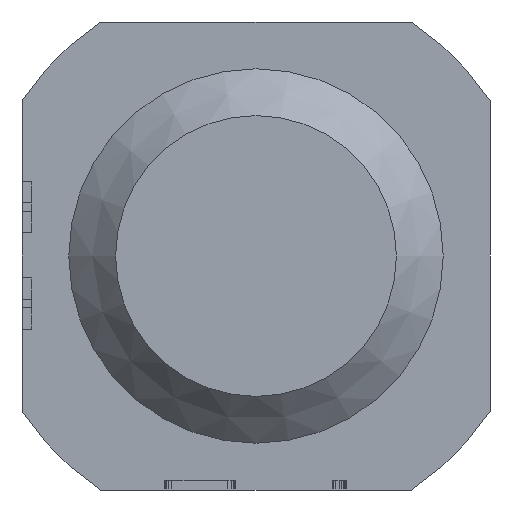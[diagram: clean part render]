
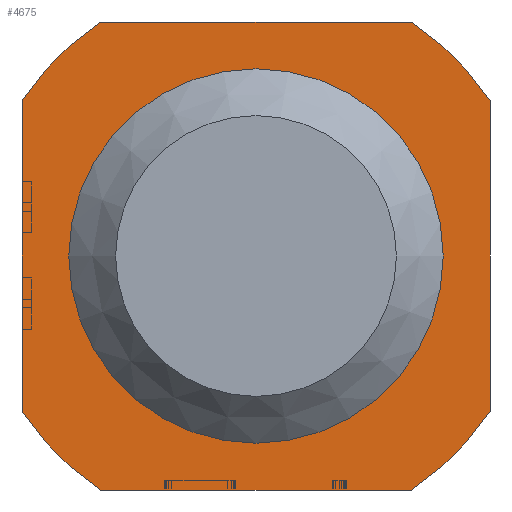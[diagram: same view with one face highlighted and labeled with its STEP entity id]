
A CAD part, front view. The second image highlights one B-rep face of the part: STEP entity #4675.
In plain terms, the highlighted planar face has unit normal (0, -1, 0).
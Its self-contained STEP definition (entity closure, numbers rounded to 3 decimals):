
#4675=ADVANCED_FACE('',(#34466,#34468),#34470,.T.);
#34466=FACE_BOUND('',#34467,.T.);
#34467=EDGE_LOOP('',(#62147,#62148,#62149,#62150,#62151,#62152,#62153,#62154));
#34468=FACE_BOUND('',#34469,.T.);
#34469=EDGE_LOOP('',(#62155));
#34470=PLANE('',#34471);
#34471=AXIS2_PLACEMENT_3D('',#34472,#34473,#34474);
#34472=CARTESIAN_POINT('',(0.,-165.,0.));
#34473=DIRECTION('',(0.,-1.,0.));
#34474=DIRECTION('',(-1.,0.,0.));
#62147=ORIENTED_EDGE('',*,*,#68439,.T.);
#62148=ORIENTED_EDGE('',*,*,#68558,.T.);
#62149=ORIENTED_EDGE('',*,*,#68556,.T.);
#62150=ORIENTED_EDGE('',*,*,#68530,.T.);
#62151=ORIENTED_EDGE('',*,*,#68528,.T.);
#62152=ORIENTED_EDGE('',*,*,#68445,.T.);
#62153=ORIENTED_EDGE('',*,*,#68443,.T.);
#62154=ORIENTED_EDGE('',*,*,#68441,.T.);
#62155=ORIENTED_EDGE('',*,*,#68560,.F.);
#68439=EDGE_CURVE('',#71628,#71626,#71629,.F.);
#68441=EDGE_CURVE('',#71631,#71628,#71632,.T.);
#68443=EDGE_CURVE('',#71634,#71631,#71635,.F.);
#68445=EDGE_CURVE('',#71637,#71634,#71638,.T.);
#68528=EDGE_CURVE('',#71802,#71637,#71803,.F.);
#68530=EDGE_CURVE('',#71805,#71802,#71806,.T.);
#68556=EDGE_CURVE('',#71856,#71805,#71857,.F.);
#68558=EDGE_CURVE('',#71626,#71856,#71859,.T.);
#68560=EDGE_CURVE('',#71862,#71862,#71863,.T.);
#71626=VERTEX_POINT('',#77859);
#71628=VERTEX_POINT('',#77863);
#71629=CIRCLE('',#77864,6.);
#71631=VERTEX_POINT('',#77871);
#71632=LINE('',#77872,#77873);
#71634=VERTEX_POINT('',#77878);
#71635=CIRCLE('',#77879,6.);
#71637=VERTEX_POINT('',#77886);
#71638=LINE('',#77887,#77888);
#71802=VERTEX_POINT('',#78272);
#71803=CIRCLE('',#78273,6.);
#71805=VERTEX_POINT('',#78280);
#71806=LINE('',#78281,#78282);
#71856=VERTEX_POINT('',#78383);
#71857=CIRCLE('',#78384,6.);
#71859=LINE('',#78391,#78392);
#71862=VERTEX_POINT('',#78399);
#71863=CIRCLE('',#78400,3.1);
#77859=CARTESIAN_POINT('',(3.317,-165.,5.));
#77863=CARTESIAN_POINT('',(5.,-165.,3.317));
#77864=AXIS2_PLACEMENT_3D('',#77865,#77866,#77867);
#77865=CARTESIAN_POINT('',(0.,-165.,0.));
#77866=DIRECTION('',(0.,1.,0.));
#77867=DIRECTION('',(0.553,0.,0.833));
#77871=CARTESIAN_POINT('',(5.,-165.,-3.317));
#77872=CARTESIAN_POINT('',(5.,-165.,-3.317));
#77873=VECTOR('',#77874,1.);
#77874=DIRECTION('',(0.,0.,1.));
#77878=CARTESIAN_POINT('',(3.317,-165.,-5.));
#77879=AXIS2_PLACEMENT_3D('',#77880,#77881,#77882);
#77880=CARTESIAN_POINT('',(0.,-165.,0.));
#77881=DIRECTION('',(0.,1.,0.));
#77882=DIRECTION('',(0.833,0.,-0.553));
#77886=CARTESIAN_POINT('',(-3.317,-165.,-5.));
#77887=CARTESIAN_POINT('',(-3.317,-165.,-5.));
#77888=VECTOR('',#77889,1.);
#77889=DIRECTION('',(1.,0.,0.));
#78272=CARTESIAN_POINT('',(-5.,-165.,-3.317));
#78273=AXIS2_PLACEMENT_3D('',#78274,#78275,#78276);
#78274=CARTESIAN_POINT('',(0.,-165.,0.));
#78275=DIRECTION('',(0.,1.,0.));
#78276=DIRECTION('',(-0.553,0.,-0.833));
#78280=CARTESIAN_POINT('',(-5.,-165.,3.317));
#78281=CARTESIAN_POINT('',(-5.,-165.,3.317));
#78282=VECTOR('',#78283,1.);
#78283=DIRECTION('',(0.,0.,-1.));
#78383=CARTESIAN_POINT('',(-3.317,-165.,5.));
#78384=AXIS2_PLACEMENT_3D('',#78385,#78386,#78387);
#78385=CARTESIAN_POINT('',(0.,-165.,0.));
#78386=DIRECTION('',(0.,1.,0.));
#78387=DIRECTION('',(-0.833,0.,0.553));
#78391=CARTESIAN_POINT('',(3.317,-165.,5.));
#78392=VECTOR('',#78393,1.);
#78393=DIRECTION('',(-1.,0.,0.));
#78399=CARTESIAN_POINT('',(0.,-165.,-3.1));
#78400=AXIS2_PLACEMENT_3D('',#78401,#78402,#78403);
#78401=CARTESIAN_POINT('',(0.,-165.,0.));
#78402=DIRECTION('',(0.,-1.,0.));
#78403=DIRECTION('',(0.,0.,-1.));
